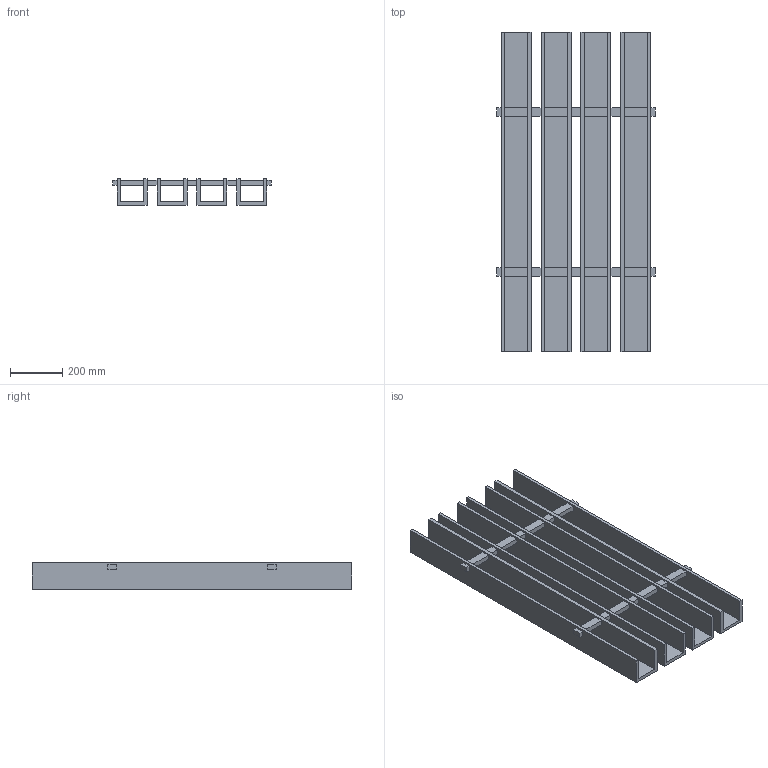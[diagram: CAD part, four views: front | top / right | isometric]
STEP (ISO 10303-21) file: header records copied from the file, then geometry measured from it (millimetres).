
FILE_DESCRIPTION(/* description */ (''),/* implementation_level */ '2;1');
FILE_NAME(/* name */ 'PET GRILLA_4.5x4_4ft',/* time_stamp */ '2024-10-15T14:22:19-05:00',/* author */ (''),/* organization */ (''),/* preprocessor_version */ 'ST-DEVELOPER v19.2',/* originating_system */ 'Rhino 8.4',/* authorisation */ '');
FILE_SCHEMA (('CONFIG_CONTROL_DESIGN'));
Length unit declared in the file: inch
Products named in the file (1): Document
Bounding box: 603.25 x 1219.2 x 101.6 mm (x, y, z)
Volume: 18698152.1 mm3; surface area: 3087574.5 mm2
Topology: 1 solids, 1 shells, 116 faces, 312 edges, 208 vertices
Faces by surface type: plane 116
Entity records: 3260 total; most frequent: CARTESIAN_POINT 950, ORIENTED_EDGE 624, EDGE_CURVE 312, B_SPLINE_CURVE_WITH_KNOTS 312, VERTEX_POINT 208, EDGE_LOOP 148, DIRECTION 120, AXIS2_PLACEMENT_3D 118
